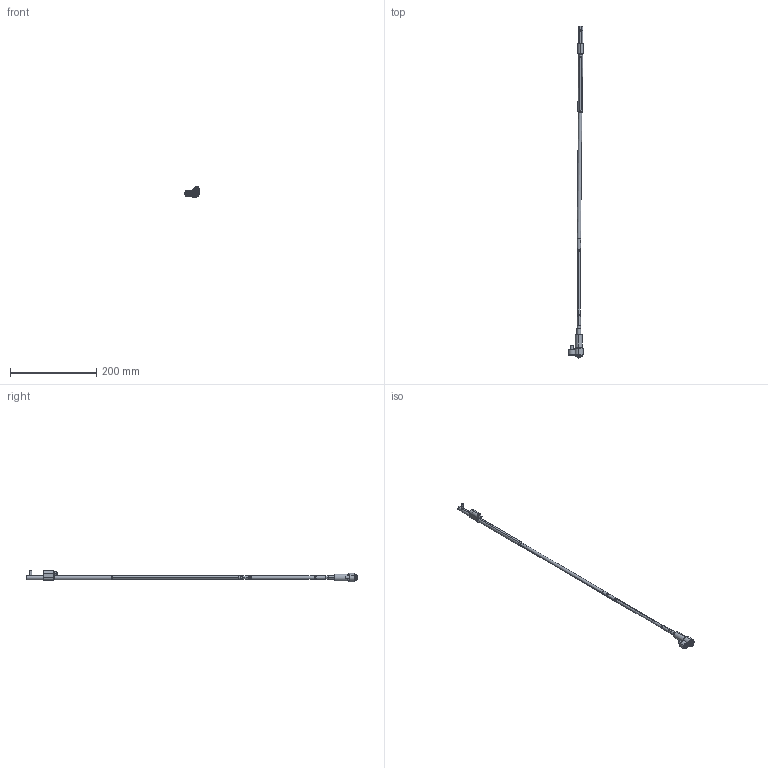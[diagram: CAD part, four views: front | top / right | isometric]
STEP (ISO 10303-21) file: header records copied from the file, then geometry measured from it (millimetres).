
FILE_DESCRIPTION (( 'STEP AP214' ), '1' );
FILE_NAME ('WL080125-INJ 0,5°.STEP', '2021-03-19T15:30:18', ( '' ), ( '' ), 'SwSTEP 2.0', 'SolidWorks 2019', '' );
FILE_SCHEMA (( 'AUTOMOTIVE_DESIGN' ));
Length unit declared in the file: millimetre
Products named in the file (17): 9DR2206-TOR; Web-WL08XX-A7_OFF-WL080125-0,5; WL080100-B_WL0800FF; Web-WL08-A1; 1DIN912616_DIN 912 M6 x 16 --- 16C; 1DIN912545_DIN 912 M5 x 50 --- 50C; WL080100-B1_WL0800FF-1; 3IMAN4X2-150_con sello; WL080100-D; Web-WL08-F01; Web-WL08-A3; Web-WL08-F00.SLDPRT; WL080100-C; WL080125-INJ 0,5°; WL080100-E; Web-WL08-A2; Web-WP08-1
Assembly tree (16 placements, depth 3):
  WL080125-INJ 0,5°
    Web-WP08-1
    Web-WL08XX-A7_OFF-WL080125-0,5
    Web-WL08-A3
    Web-WL08-A2
    Web-WL08-A1
    WL080100-D
    WL080100-C
    WL080100-B_WL0800FF
      WL080100-B1_WL0800FF-1
      3IMAN4X2-150_con sello
    WL080100-E
    9DR2206-TOR
    Web-WL08-F00.SLDPRT
      Web-WL08-F01
      1DIN912545_DIN 912 M5 x 50 --- 50C
      1DIN912616_DIN 912 M6 x 16 --- 16C
Bounding box: 34.62 x 772.02 x 26.9 mm (x, y, z)
Volume: 58701.7 mm3; surface area: 34416 mm2
Topology: 15 solids, 15 shells, 424 faces, 888 edges, 516 vertices
Faces by surface type: plane 132, cylinder 128, cone 116, torus 48
Entity records: 13492 total; most frequent: DIRECTION 2218, CARTESIAN_POINT 2045, ORIENTED_EDGE 1756, AXIS2_PLACEMENT_3D 921, EDGE_CURVE 878, VERTEX_POINT 516, CIRCLE 476, EDGE_LOOP 468
